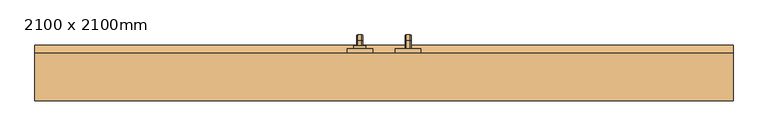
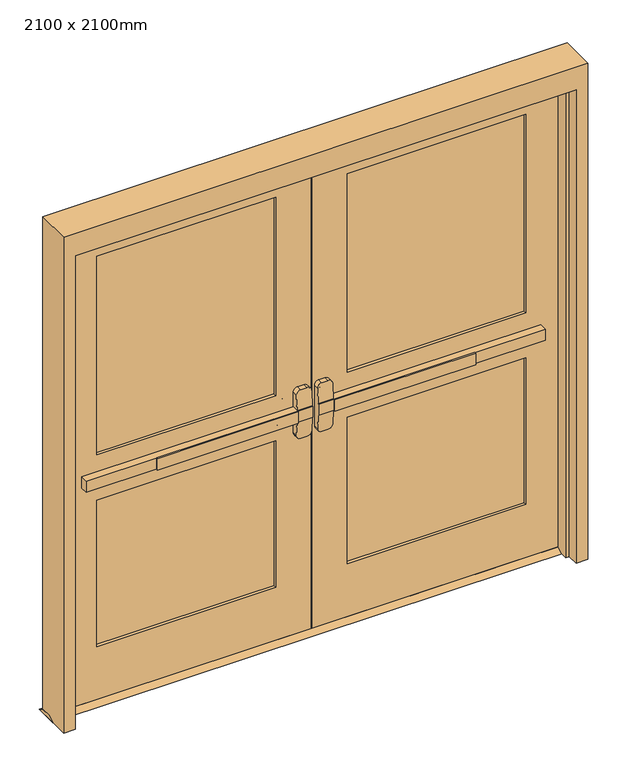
"""IFC4 building model written with IfcOpenShell, lengths in millimetres: door geometry, Дверь-Наружная-Двойная-Две_Свет : 2100 x 2100mm."""

from ifc_helpers import new_model, si_unit, point, frame, frame_2d, origin, place, context, project, spatial, polyline, circle_curve, ellipse_curve, trimmed, segment, composite_curve, outline, extrude, faceted_brep, source, transform, mapped, element, save
from ifc_brep_helpers import plane_surface, cylinder_surface, revolved_surface, advanced_brep


def door_2100_x_2100mm_7a8dc267(model_context):
    return source(origin(), model_context, "Body", "SolidModel", [
        extrude(outline(polyline([(-667.2, -1.75), (-667.2, 4.6), (-76.2, 4.6), (-76.2, -1.75), (-667.2, -1.75)])), frame((0.0, 0.0, 974.6), z_axis=(0.0, 0.0, 1.0), x_axis=(1.0, 0.0, 0.0)), (0.0, 0.0, 1.0), 50.8),
        advanced_brep(
        [(-12.7, 4.6, 1025.4), (-76.2, 4.6, 1025.4), (-962.7, 4.6, 1025.4), (-962.7, 4.6, 974.6), (-76.2, 4.6, 974.6), (-12.7, 4.6, 974.6), (-962.7, 36.35, 1025.4), (-76.2, 36.35, 1025.4), (-76.2, 36.35, 1088.9), (-57.15, 36.35, 1107.95), (-31.75, 36.35, 1107.95), (-12.7, 36.35, 1088.9), (-12.7, 36.35, 911.1), (-31.75, 36.35, 892.05), (-57.15, 36.35, 892.05), (-76.2, 36.35, 911.1), (-76.2, 36.35, 974.6), (-962.7, 36.35, 974.6), (-12.7, 7.7752467, 1025.4), (-76.2, 7.7752467, 1025.4), (-12.7, 7.7752467, 974.6), (-12.7, 12.7854269, 911.1), (-12.7, 12.7854269, 1088.9), (-76.2, 7.7752467, 974.6), (-76.2, 12.7854269, 1088.9), (-76.2, 12.7854269, 911.1), (-57.15, 14.288481, 1107.95), (-31.75, 14.288481, 1107.95), (-31.75, 14.288481, 892.05), (-57.15, 14.288481, 892.05)],
        [
            (0, 1),
            (1, 2),
            (2, 3),
            (3, 4),
            (4, 5),
            (5, 0),
            (6, 7),
            (7, 8),
            (8, 9, circle_curve(frame((-57.15, 36.35, 1088.9), z_axis=(0.0, 1.0, 0.0), x_axis=(-1.0, 0.0, 0.0)), 19.05)),
            (9, 10),
            (10, 11, circle_curve(frame((-31.75, 36.35, 1088.9), z_axis=(0.0, 1.0, 0.0), x_axis=(-1.0, 0.0, 0.0)), 19.05)),
            (11, 12),
            (12, 13, circle_curve(frame((-31.75, 36.35, 911.1), z_axis=(0.0, 1.0, 0.0), x_axis=(-1.0, 0.0, 0.0)), 19.05)),
            (13, 14),
            (14, 15, circle_curve(frame((-57.15, 36.35, 911.1), z_axis=(0.0, 1.0, 0.0), x_axis=(-1.0, 0.0, 0.0)), 19.05)),
            (15, 16),
            (16, 17),
            (17, 6),
            (0, 18),
            (18, 19),
            (19, 7),
            (6, 2),
            (5, 20),
            (20, 21),
            (21, 12),
            (11, 22),
            (22, 18),
            (16, 23),
            (23, 20),
            (3, 17),
            (19, 24),
            (24, 8),
            (15, 25),
            (25, 23),
            (9, 26),
            (26, 27),
            (27, 10),
            (13, 28),
            (28, 29),
            (29, 14),
            (29, 25, ellipse_curve(frame((-57.15, 12.7854269, 911.1), z_axis=(0.0, 0.9969018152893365, 0.07865602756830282), x_axis=(0.0, -0.07865602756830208, 0.9969018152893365)), 19.1092038, 19.05)),
            (24, 26, ellipse_curve(frame((-57.15, 12.7854269, 1088.9), z_axis=(0.0, 0.9969018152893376, -0.07865602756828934), x_axis=(0.0, -0.078656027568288, -0.9969018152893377)), 19.1092038, 19.05)),
            (27, 22, ellipse_curve(frame((-31.75, 12.7854269, 1088.9), z_axis=(0.0, 0.9969018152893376, -0.07865602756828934), x_axis=(0.0, -0.078656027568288, -0.9969018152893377)), 19.1092038, 19.05)),
            (21, 28, ellipse_curve(frame((-31.75, 12.7854269, 911.1), z_axis=(0.0, 0.9969018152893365, 0.07865602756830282), x_axis=(0.0, -0.07865602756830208, 0.9969018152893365)), 19.1092038, 19.05)),
        ],
        [
            plane_surface(frame((-12.7, 4.6, 1025.4), z_axis=(0.0, -1.0, 0.0), x_axis=(1.0, 0.0, 0.0))),
            plane_surface(frame((-12.7, 36.35, 1025.4), z_axis=(0.0, 1.0, 0.0), x_axis=(-1.0, 0.0, 0.0))),
            plane_surface(frame((-962.7, 4.6, 1025.4), z_axis=(0.0, 0.0, 1.0), x_axis=(0.0, 1.0, 0.0))),
            plane_surface(frame((-12.7, 4.6, 1025.4), z_axis=(1.0, 0.0, 0.0), x_axis=(0.0, 1.0, 0.0))),
            plane_surface(frame((-12.7, 4.6, 974.6), z_axis=(0.0, 0.0, -1.0), x_axis=(0.0, 1.0, 0.0))),
            plane_surface(frame((-962.7, 4.6, 974.6), z_axis=(-1.0, 0.0, 0.0), x_axis=(0.0, 1.0, 0.0))),
            plane_surface(frame((-76.2, 7.7752467, 911.1), z_axis=(-1.0, 0.0, 0.0), x_axis=(0.0, 1.0, 0.0))),
            plane_surface(frame((-57.15, 7.7752467, 1107.95), z_axis=(0.0, 0.0, 1.0), x_axis=(0.0, 1.0, 0.0))),
            plane_surface(frame((-31.75, 7.7752467, 892.05), z_axis=(0.0, 0.0, -1.0), x_axis=(0.0, 1.0, 0.0))),
            cylinder_surface(frame((-57.15, 36.35, 911.1), z_axis=(0.0, -1.0, 0.0), x_axis=(-1.0, 0.0, 0.0)), 19.05),
            cylinder_surface(frame((-57.15, 36.35, 1088.9), z_axis=(0.0, -1.0, 0.0), x_axis=(-1.0, 0.0, 0.0)), 19.05),
            cylinder_surface(frame((-31.75, 36.35, 1088.9), z_axis=(0.0, -1.0, 0.0), x_axis=(-1.0, 0.0, 0.0)), 19.05),
            cylinder_surface(frame((-31.75, 36.35, 911.1), z_axis=(0.0, -1.0, 0.0), x_axis=(-1.0, 0.0, 0.0)), 19.05),
            plane_surface(frame((-76.2, 7.7752467, 1025.4), z_axis=(0.0, -0.9969018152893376, 0.07865602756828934), x_axis=(1.0, 0.0, 0.0))),
            plane_surface(frame((-76.2, 14.288481, 892.05), z_axis=(0.0, -0.9969018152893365, -0.07865602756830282), x_axis=(1.0, 0.0, 0.0))),
        ],
        [
            (0, [[1, 2, 3, 4, 5, 6]]),
            (1, [[7, 8, 9, 10, 11, 12, 13, 14, 15, 16, 17, 18]]),
            (2, [[-2, -1, 19, 20, 21, -7, 22]]),
            (3, [[23, 24, 25, -12, 26, 27, -19, -6]]),
            (4, [[-17, 28, 29, -23, -5, -4, 30]]),
            (5, [[-22, -18, -30, -3]]),
            (6, [[-21, 31, 32, -8]]),
            (6, [[33, 34, -28, -16]]),
            (7, [[35, 36, 37, -10]]),
            (8, [[38, 39, 40, -14]]),
            (9, [[-40, 41, -33, -15]]),
            (10, [[-32, 42, -35, -9]]),
            (11, [[-37, 43, -26, -11]]),
            (12, [[-25, 44, -38, -13]]),
            (13, [[-27, -43, -36, -42, -31, -20]]),
            (14, [[-29, -34, -41, -39, -44, -24]]),
        ],
    ),
        extrude(outline(polyline([(81.35, 15.0), (106.75, 0.0), (10.95, 0.0), (36.35, 15.0), (81.35, 15.0)])), frame((-1100.0, 0.0, 0.0), z_axis=(1.0, 0.0, 0.0), x_axis=(0.0, 1.0, 0.0)), (0.0, 0.0, 1.0), 2200.0),
        extrude(outline(polyline([(667.2, -1.75), (76.2, -1.75), (76.2, 4.6), (667.2, 4.6), (667.2, -1.75)])), frame((0.0, 0.0, 974.6), z_axis=(0.0, 0.0, 1.0), x_axis=(1.0, 0.0, 0.0)), (0.0, 0.0, 1.0), 50.8),
        advanced_brep(
        [(12.7, 4.6, 1025.4), (12.7, 4.6, 974.6), (76.2, 4.6, 974.6), (962.7, 4.6, 974.6), (962.7, 4.6, 1025.4), (76.2, 4.6, 1025.4), (962.7, 36.35, 1025.4), (962.7, 36.35, 974.6), (76.2, 36.35, 974.6), (76.2, 36.35, 911.1), (57.15, 36.35, 892.05), (31.75, 36.35, 892.05), (12.7, 36.35, 911.1), (12.7, 36.35, 1088.9), (31.75, 36.35, 1107.95), (57.15, 36.35, 1107.95), (76.2, 36.35, 1088.9), (76.2, 36.35, 1025.4), (76.2, 7.7752467, 1025.4), (12.7, 7.7752467, 1025.4), (12.7, 12.7854269, 1088.9), (12.7, 12.7854269, 911.1), (12.7, 7.7752467, 974.6), (76.2, 7.7752467, 974.6), (76.2, 12.7854269, 911.1), (76.2, 12.7854269, 1088.9), (31.75, 14.288481, 1107.95), (57.15, 14.288481, 1107.95), (57.15, 14.288481, 892.05), (31.75, 14.288481, 892.05)],
        [
            (0, 1),
            (1, 2),
            (2, 3),
            (3, 4),
            (4, 5),
            (5, 0),
            (6, 7),
            (7, 8),
            (8, 9),
            (9, 10, circle_curve(frame((57.15, 36.35, 911.1), z_axis=(0.0, 1.0, 0.0), x_axis=(1.0, 0.0, 0.0)), 19.05)),
            (10, 11),
            (11, 12, circle_curve(frame((31.75, 36.35, 911.1), z_axis=(0.0, 1.0, 0.0), x_axis=(1.0, 0.0, 0.0)), 19.05)),
            (12, 13),
            (13, 14, circle_curve(frame((31.75, 36.35, 1088.9), z_axis=(0.0, 1.0, 0.0), x_axis=(1.0, 0.0, 0.0)), 19.05)),
            (14, 15),
            (15, 16, circle_curve(frame((57.15, 36.35, 1088.9), z_axis=(0.0, 1.0, 0.0), x_axis=(1.0, 0.0, 0.0)), 19.05)),
            (16, 17),
            (17, 6),
            (4, 6),
            (17, 18),
            (18, 19),
            (19, 0),
            (19, 20),
            (20, 13),
            (12, 21),
            (21, 22),
            (22, 1),
            (7, 3),
            (22, 23),
            (23, 8),
            (23, 24),
            (24, 9),
            (16, 25),
            (25, 18),
            (14, 26),
            (26, 27),
            (27, 15),
            (10, 28),
            (28, 29),
            (29, 11),
            (24, 28, ellipse_curve(frame((57.15, 12.7854269, 911.1), z_axis=(0.0, 0.9969018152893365, 0.07865602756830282), x_axis=(0.0, -0.07865602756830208, 0.9969018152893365)), 19.1092038, 19.05)),
            (27, 25, ellipse_curve(frame((57.15, 12.7854269, 1088.9), z_axis=(0.0, 0.9969018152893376, -0.07865602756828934), x_axis=(0.0, -0.078656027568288, -0.9969018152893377)), 19.1092038, 19.05)),
            (20, 26, ellipse_curve(frame((31.75, 12.7854269, 1088.9), z_axis=(0.0, 0.9969018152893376, -0.07865602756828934), x_axis=(0.0, -0.078656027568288, -0.9969018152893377)), 19.1092038, 19.05)),
            (29, 21, ellipse_curve(frame((31.75, 12.7854269, 911.1), z_axis=(0.0, 0.9969018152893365, 0.07865602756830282), x_axis=(0.0, -0.07865602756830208, 0.9969018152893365)), 19.1092038, 19.05)),
        ],
        [
            plane_surface(frame((12.7, 4.6, 1025.4), z_axis=(0.0, -1.0, 0.0), x_axis=(-1.0, 0.0, 0.0))),
            plane_surface(frame((12.7, 36.35, 1025.4), z_axis=(0.0, 1.0, 0.0), x_axis=(1.0, 0.0, 0.0))),
            plane_surface(frame((962.7, 4.6, 1025.4), z_axis=(0.0, 0.0, 1.0), x_axis=(0.0, 1.0, 0.0))),
            plane_surface(frame((12.7, 4.6, 1025.4), z_axis=(-1.0, 0.0, 0.0), x_axis=(0.0, 1.0, 0.0))),
            plane_surface(frame((12.7, 4.6, 974.6), z_axis=(0.0, 0.0, -1.0), x_axis=(0.0, 1.0, 0.0))),
            plane_surface(frame((962.7, 4.6, 974.6), z_axis=(1.0, 0.0, 0.0), x_axis=(0.0, 1.0, 0.0))),
            plane_surface(frame((76.2, 7.7752467, 911.1), z_axis=(1.0, 0.0, 0.0), x_axis=(0.0, 1.0, 0.0))),
            plane_surface(frame((57.15, 7.7752467, 1107.95), z_axis=(0.0, 0.0, 1.0), x_axis=(0.0, 1.0, 0.0))),
            plane_surface(frame((31.75, 7.7752467, 892.05), z_axis=(0.0, 0.0, -1.0), x_axis=(0.0, 1.0, 0.0))),
            cylinder_surface(frame((57.15, 36.35, 911.1), z_axis=(0.0, -1.0, 0.0), x_axis=(1.0, 0.0, 0.0)), 19.05),
            cylinder_surface(frame((57.15, 36.35, 1088.9), z_axis=(0.0, -1.0, 0.0), x_axis=(1.0, 0.0, 0.0)), 19.05),
            cylinder_surface(frame((31.75, 36.35, 1088.9), z_axis=(0.0, -1.0, 0.0), x_axis=(1.0, 0.0, 0.0)), 19.05),
            cylinder_surface(frame((31.75, 36.35, 911.1), z_axis=(0.0, -1.0, 0.0), x_axis=(1.0, 0.0, 0.0)), 19.05),
            plane_surface(frame((76.2, 7.7752467, 1025.4), z_axis=(0.0, -0.9969018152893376, 0.07865602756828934), x_axis=(-1.0, 0.0, 0.0))),
            plane_surface(frame((76.2, 14.288481, 892.05), z_axis=(0.0, -0.9969018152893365, -0.07865602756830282), x_axis=(-1.0, 0.0, 0.0))),
        ],
        [
            (0, [[1, 2, 3, 4, 5, 6]]),
            (1, [[7, 8, 9, 10, 11, 12, 13, 14, 15, 16, 17, 18]]),
            (2, [[19, -18, 20, 21, 22, -6, -5]]),
            (3, [[-1, -22, 23, 24, -13, 25, 26, 27]]),
            (4, [[28, -3, -2, -27, 29, 30, -8]]),
            (5, [[-4, -28, -7, -19]]),
            (6, [[-9, -30, 31, 32]]),
            (6, [[-17, 33, 34, -20]]),
            (7, [[-15, 35, 36, 37]]),
            (8, [[-11, 38, 39, 40]]),
            (9, [[-10, -32, 41, -38]]),
            (10, [[-16, -37, 42, -33]]),
            (11, [[-14, -24, 43, -35]]),
            (12, [[-12, -40, 44, -25]]),
            (13, [[-21, -34, -42, -36, -43, -23]]),
            (14, [[-26, -44, -39, -41, -31, -29]]),
        ],
    ),
        advanced_brep(
        [(66.2, 96.35, 1001.190625), (66.2, 96.35, 998.809375), (69.771875, 96.35, 995.2375), (82.6284594, 96.35, 995.2375), (86.2, 96.35, 998.8090406), (86.2, 96.35, 1001.190625), (82.628125, 96.35, 1004.7625), (69.771875, 96.35, 1004.7625), (66.2, 96.35, 874.609375), (69.771875, 96.35, 871.0375), (82.628125, 96.35, 871.0375), (86.2, 96.35, 874.609375), (86.2, 96.35, 876.9909594), (82.6284594, 96.35, 880.5625), (69.771875, 96.35, 880.5625), (66.2, 96.35, 876.990625), (66.2, 121.75, 1001.190625), (66.2, 135.640625, 987.3), (66.2, 135.640625, 888.5), (66.2, 121.75, 874.609375), (66.2, 121.75, 876.990625), (66.2, 133.259375, 888.5), (66.2, 133.259375, 987.3), (66.2, 121.75, 998.809375), (69.771875, 121.75, 995.2375), (82.6284594, 121.75, 995.2375), (86.2, 121.75, 998.8090406), (86.2, 133.2590406, 987.3), (86.2, 133.2590406, 888.5), (86.2, 121.75, 876.9909594), (86.2, 121.75, 874.609375), (86.2, 135.640625, 888.5), (86.2, 135.640625, 987.3), (86.2, 121.75, 1001.190625), (82.628125, 121.75, 1004.7625), (69.771875, 121.75, 1004.7625), (69.771875, 129.6875, 987.3), (82.6284594, 129.6875, 987.3), (82.628125, 139.2125, 987.3), (69.771875, 139.2125, 987.3), (69.771875, 129.6875, 888.5), (82.6284594, 129.6875, 888.5), (82.628125, 139.2125, 888.5), (69.771875, 139.2125, 888.5), (69.771875, 121.75, 880.5625), (82.6284594, 121.75, 880.5625), (82.628125, 121.75, 871.0375), (69.771875, 121.75, 871.0375)],
        [
            (0, 1),
            (1, 2, circle_curve(frame((69.771875, 96.35, 998.809375), z_axis=(0.0, -1.0, 0.0), x_axis=(0.0, 0.0, 1.0)), 3.571875)),
            (2, 3),
            (3, 4, circle_curve(frame((82.6284594, 96.35, 998.8090406), z_axis=(0.0, -1.0, 0.0), x_axis=(0.0, 0.0, 1.0)), 3.5715406)),
            (4, 5),
            (5, 6, circle_curve(frame((82.628125, 96.35, 1001.190625), z_axis=(0.0, -1.0, 0.0), x_axis=(0.0, 0.0, 1.0)), 3.571875)),
            (6, 7),
            (7, 0, circle_curve(frame((69.771875, 96.35, 1001.190625), z_axis=(0.0, -1.0, 0.0), x_axis=(0.0, 0.0, 1.0)), 3.571875)),
            (8, 9, circle_curve(frame((69.771875, 96.35, 874.609375), z_axis=(0.0, -1.0, 0.0), x_axis=(0.0, 0.0, -1.0)), 3.571875)),
            (9, 10),
            (10, 11, circle_curve(frame((82.628125, 96.35, 874.609375), z_axis=(0.0, -1.0, 0.0), x_axis=(0.0, 0.0, -1.0)), 3.571875)),
            (11, 12),
            (12, 13, circle_curve(frame((82.6284594, 96.35, 876.9909594), z_axis=(0.0, -1.0, 0.0), x_axis=(0.0, 0.0, -1.0)), 3.5715406)),
            (13, 14),
            (14, 15, circle_curve(frame((69.771875, 96.35, 876.990625), z_axis=(0.0, -1.0, 0.0), x_axis=(0.0, 0.0, -1.0)), 3.571875)),
            (15, 8),
            (0, 16),
            (16, 17, circle_curve(frame((66.2, 121.75, 987.3), z_axis=(-1.0, 0.0, 0.0), x_axis=(0.0, 0.0, 1.0)), 13.890625)),
            (17, 18),
            (18, 19, circle_curve(frame((66.2, 121.75, 888.5), z_axis=(-1.0, 0.0, 0.0), x_axis=(0.0, 1.0, 0.0)), 13.890625)),
            (19, 8),
            (15, 20),
            (20, 21, circle_curve(frame((66.2, 121.75, 888.5), z_axis=(1.0, 0.0, 0.0), x_axis=(0.0, 1.0, 0.0)), 11.509375)),
            (21, 22),
            (22, 23, circle_curve(frame((66.2, 121.75, 987.3), z_axis=(1.0, 0.0, 0.0), x_axis=(0.0, 0.0, 1.0)), 11.509375)),
            (23, 1),
            (23, 24, circle_curve(frame((69.771875, 121.75, 998.809375), z_axis=(0.0, -1.0, 0.0), x_axis=(0.0, 0.0, 1.0)), 3.571875)),
            (24, 2),
            (24, 25),
            (25, 3),
            (25, 26, circle_curve(frame((82.6284594, 121.75, 998.8090406), z_axis=(0.0, -1.0, 0.0), x_axis=(0.0, 0.0, 1.0)), 3.5715406)),
            (26, 4),
            (26, 27, circle_curve(frame((86.2, 121.75, 987.3), z_axis=(-1.0, 0.0, 0.0), x_axis=(0.0, 0.0, 1.0)), 11.5090406)),
            (27, 28),
            (28, 29, circle_curve(frame((86.2, 121.75, 888.5), z_axis=(-1.0, 0.0, 0.0), x_axis=(0.0, 1.0, 0.0)), 11.5090406)),
            (29, 12),
            (11, 30),
            (30, 31, circle_curve(frame((86.2, 121.75, 888.5), z_axis=(1.0, 0.0, 0.0), x_axis=(0.0, 1.0, 0.0)), 13.890625)),
            (31, 32),
            (32, 33, circle_curve(frame((86.2, 121.75, 987.3), z_axis=(1.0, 0.0, 0.0), x_axis=(0.0, 0.0, 1.0)), 13.890625)),
            (33, 5),
            (33, 34, circle_curve(frame((82.628125, 121.75, 1001.190625), z_axis=(0.0, -1.0, 0.0), x_axis=(0.0, 0.0, 1.0)), 3.571875)),
            (34, 6),
            (34, 35),
            (35, 7),
            (35, 16, circle_curve(frame((69.771875, 121.75, 1001.190625), z_axis=(0.0, -1.0, 0.0), x_axis=(0.0, 0.0, 1.0)), 3.571875)),
            (36, 24, circle_curve(frame((69.771875, 121.75, 987.3), z_axis=(1.0, 0.0, 0.0), x_axis=(0.0, 0.0, 1.0)), 7.9375)),
            (22, 36, circle_curve(frame((69.771875, 133.259375, 987.3), z_axis=(0.0, 0.0, 1.0), x_axis=(0.0, 1.0, 0.0)), 3.571875)),
            (37, 25, circle_curve(frame((82.6284594, 121.75, 987.3), z_axis=(1.0, 0.0, 0.0), x_axis=(0.0, 0.0, 1.0)), 7.9375)),
            (36, 37),
            (37, 27, circle_curve(frame((82.6284594, 133.2590406, 987.3), z_axis=(0.0, 0.0, 1.0), x_axis=(0.0, 1.0, 0.0)), 3.5715406)),
            (38, 34, circle_curve(frame((82.628125, 121.75, 987.3), z_axis=(1.0, 0.0, 0.0), x_axis=(0.0, 0.0, 1.0)), 17.4625)),
            (32, 38, circle_curve(frame((82.628125, 135.640625, 987.3), z_axis=(0.0, 0.0, 1.0), x_axis=(0.0, 1.0, 0.0)), 3.571875)),
            (39, 35, circle_curve(frame((69.771875, 121.75, 987.3), z_axis=(1.0, 0.0, 0.0), x_axis=(0.0, 0.0, 1.0)), 17.4625)),
            (38, 39),
            (39, 17, circle_curve(frame((69.771875, 135.640625, 987.3), z_axis=(0.0, 0.0, 1.0), x_axis=(0.0, 1.0, 0.0)), 3.571875)),
            (21, 40, circle_curve(frame((69.771875, 133.259375, 888.5), z_axis=(0.0, 0.0, 1.0), x_axis=(0.0, 1.0, 0.0)), 3.571875)),
            (40, 36),
            (40, 41),
            (41, 37),
            (41, 28, circle_curve(frame((82.6284594, 133.2590406, 888.5), z_axis=(0.0, 0.0, 1.0), x_axis=(0.0, 1.0, 0.0)), 3.5715406)),
            (31, 42, circle_curve(frame((82.628125, 135.640625, 888.5), z_axis=(0.0, 0.0, 1.0), x_axis=(0.0, 1.0, 0.0)), 3.571875)),
            (42, 38),
            (42, 43),
            (43, 39),
            (43, 18, circle_curve(frame((69.771875, 135.640625, 888.5), z_axis=(0.0, 0.0, 1.0), x_axis=(0.0, 1.0, 0.0)), 3.571875)),
            (44, 40, circle_curve(frame((69.771875, 121.75, 888.5), z_axis=(1.0, 0.0, 0.0), x_axis=(0.0, 1.0, 0.0)), 7.9375)),
            (20, 44, circle_curve(frame((69.771875, 121.75, 876.990625), z_axis=(0.0, 1.0, 0.0), x_axis=(0.0, 0.0, -1.0)), 3.571875)),
            (45, 41, circle_curve(frame((82.6284594, 121.75, 888.5), z_axis=(1.0, 0.0, 0.0), x_axis=(0.0, 1.0, 0.0)), 7.9375)),
            (44, 45),
            (45, 29, circle_curve(frame((82.6284594, 121.75, 876.9909594), z_axis=(0.0, 1.0, 0.0), x_axis=(0.0, 0.0, -1.0)), 3.5715406)),
            (46, 42, circle_curve(frame((82.628125, 121.75, 888.5), z_axis=(1.0, 0.0, 0.0), x_axis=(0.0, 1.0, 0.0)), 17.4625)),
            (30, 46, circle_curve(frame((82.628125, 121.75, 874.609375), z_axis=(0.0, 1.0, 0.0), x_axis=(0.0, 0.0, -1.0)), 3.571875)),
            (47, 43, circle_curve(frame((69.771875, 121.75, 888.5), z_axis=(1.0, 0.0, 0.0), x_axis=(0.0, 1.0, 0.0)), 17.4625)),
            (46, 47),
            (47, 19, circle_curve(frame((69.771875, 121.75, 874.609375), z_axis=(0.0, 1.0, 0.0), x_axis=(0.0, 0.0, -1.0)), 3.571875)),
            (14, 44),
            (13, 45),
            (10, 46),
            (9, 47),
        ],
        [
            plane_surface(frame((76.2, 96.35, 1000.0), z_axis=(0.0, -1.0, 0.0), x_axis=(1.0, 0.0, 0.0))),
            plane_surface(frame((76.2, 96.35, 875.8), z_axis=(0.0, -1.0, 0.0), x_axis=(1.0, 0.0, 0.0))),
            plane_surface(frame((66.2, 96.35, 1001.190625), z_axis=(-1.0, 0.0, 0.0), x_axis=(0.0, 1.0, 0.0))),
            cylinder_surface(frame((69.771875, 96.35, 998.809375), z_axis=(0.0, -1.0, 0.0), x_axis=(0.0, 0.0, 1.0)), 3.571875),
            plane_surface(frame((69.771875, 96.35, 995.2375), z_axis=(0.0, 0.0, -1.0), x_axis=(0.0, 1.0, 0.0))),
            cylinder_surface(frame((82.6284594, 96.35, 998.8090406), z_axis=(0.0, -1.0, 0.0), x_axis=(0.0, 0.0, 1.0)), 3.5715406),
            plane_surface(frame((86.2, 96.35, 998.8090406), z_axis=(1.0, 0.0, 0.0), x_axis=(0.0, 1.0, 0.0))),
            cylinder_surface(frame((82.628125, 96.35, 1001.190625), z_axis=(0.0, -1.0, 0.0), x_axis=(0.0, 0.0, 1.0)), 3.571875),
            plane_surface(frame((82.628125, 96.35, 1004.7625), z_axis=(0.0, 0.0, 1.0), x_axis=(0.0, 1.0, 0.0))),
            cylinder_surface(frame((69.771875, 96.35, 1001.190625), z_axis=(0.0, -1.0, 0.0), x_axis=(0.0, 0.0, 1.0)), 3.571875),
            revolved_surface(trimmed(ellipse_curve(frame((69.771875, 121.75, 998.809375), z_axis=(0.0, -1.0, 0.0), x_axis=(0.0, 0.0, 1.0)), 3.571875, 3.571875), [point((66.2, 121.75, 998.809375))], [point((69.771875, 121.75, 995.2375))], True, "CARTESIAN"), (76.2, 121.75, 987.3), (-1.0, 0.0, 0.0)),
            revolved_surface(polyline([(69.771875, 121.75, 995.2375), (82.6284594, 121.75, 995.2375)]), (76.2, 121.75, 987.3), (-1.0, 0.0, 0.0)),
            revolved_surface(trimmed(ellipse_curve(frame((82.6284594, 121.75, 998.8090406), z_axis=(0.0, -1.0, 0.0), x_axis=(0.0, 0.0, 1.0)), 3.5715406, 3.5715406), [point((82.6284594, 121.75, 995.2375))], [point((86.2, 121.75, 998.8090406))], True, "CARTESIAN"), (76.2, 121.75, 987.3), (-1.0, 0.0, 0.0)),
            revolved_surface(trimmed(ellipse_curve(frame((82.628125, 121.75, 1001.190625), z_axis=(0.0, -1.0, 0.0), x_axis=(0.0, 0.0, 1.0)), 3.571875, 3.571875), [point((86.2, 121.75, 1001.190625))], [point((82.628125, 121.75, 1004.7625))], True, "CARTESIAN"), (76.2, 121.75, 987.3), (-1.0, 0.0, 0.0)),
            cylinder_surface(frame((76.2, 121.75, 987.3), z_axis=(-1.0, 0.0, 0.0), x_axis=(0.0, 0.0, 1.0)), 17.4625),
            revolved_surface(trimmed(ellipse_curve(frame((69.771875, 121.75, 1001.190625), z_axis=(0.0, -1.0, 0.0), x_axis=(0.0, 0.0, 1.0)), 3.571875, 3.571875), [point((69.771875, 121.75, 1004.7625))], [point((66.2, 121.75, 1001.190625))], True, "CARTESIAN"), (76.2, 121.75, 987.3), (-1.0, 0.0, 0.0)),
            cylinder_surface(frame((69.771875, 133.259375, 987.3), z_axis=(0.0, 0.0, 1.0), x_axis=(0.0, 1.0, 0.0)), 3.571875),
            plane_surface(frame((69.771875, 129.6875, 987.3), z_axis=(0.0, -1.0, 0.0), x_axis=(0.0, 0.0, -1.0))),
            cylinder_surface(frame((82.6284594, 133.2590406, 987.3), z_axis=(0.0, 0.0, 1.0), x_axis=(0.0, 1.0, 0.0)), 3.5715406),
            cylinder_surface(frame((82.628125, 135.640625, 987.3), z_axis=(0.0, 0.0, 1.0), x_axis=(0.0, 1.0, 0.0)), 3.571875),
            plane_surface(frame((82.628125, 139.2125, 987.3), z_axis=(0.0, 1.0, 0.0), x_axis=(0.0, 0.0, -1.0))),
            cylinder_surface(frame((69.771875, 135.640625, 987.3), z_axis=(0.0, 0.0, 1.0), x_axis=(0.0, 1.0, 0.0)), 3.571875),
            revolved_surface(trimmed(ellipse_curve(frame((69.771875, 133.259375, 888.5), z_axis=(0.0, 0.0, 1.0), x_axis=(0.0, 1.0, 0.0)), 3.571875, 3.571875), [point((66.2, 133.259375, 888.5))], [point((69.771875, 129.6875, 888.5))], True, "CARTESIAN"), (76.2, 121.75, 888.5), (-1.0, 0.0, 0.0)),
            revolved_surface(polyline([(69.771875, 129.6875, 888.5), (82.6284594, 129.6875, 888.5)]), (76.2, 121.75, 888.5), (-1.0, 0.0, 0.0)),
            revolved_surface(trimmed(ellipse_curve(frame((82.6284594, 133.2590406, 888.5), z_axis=(0.0, 0.0, 1.0), x_axis=(0.0, 1.0, 0.0)), 3.5715406, 3.5715406), [point((82.6284594, 129.6875, 888.5))], [point((86.2, 133.2590406, 888.5))], True, "CARTESIAN"), (76.2, 121.75, 888.5), (-1.0, 0.0, 0.0)),
            revolved_surface(trimmed(ellipse_curve(frame((82.628125, 135.640625, 888.5), z_axis=(0.0, 0.0, 1.0), x_axis=(0.0, 1.0, 0.0)), 3.571875, 3.571875), [point((86.2, 135.640625, 888.5))], [point((82.628125, 139.2125, 888.5))], True, "CARTESIAN"), (76.2, 121.75, 888.5), (-1.0, 0.0, 0.0)),
            cylinder_surface(frame((76.2, 121.75, 888.5), z_axis=(-1.0, 0.0, 0.0), x_axis=(0.0, 1.0, 0.0)), 17.4625),
            revolved_surface(trimmed(ellipse_curve(frame((69.771875, 135.640625, 888.5), z_axis=(0.0, 0.0, 1.0), x_axis=(0.0, 1.0, 0.0)), 3.571875, 3.571875), [point((69.771875, 139.2125, 888.5))], [point((66.2, 135.640625, 888.5))], True, "CARTESIAN"), (76.2, 121.75, 888.5), (-1.0, 0.0, 0.0)),
            cylinder_surface(frame((69.771875, 121.75, 876.990625), z_axis=(0.0, 1.0, 0.0), x_axis=(0.0, 0.0, -1.0)), 3.571875),
            plane_surface(frame((69.771875, 121.75, 880.5625), z_axis=(0.0, 0.0, 1.0), x_axis=(0.0, -1.0, 0.0))),
            cylinder_surface(frame((82.6284594, 121.75, 876.9909594), z_axis=(0.0, 1.0, 0.0), x_axis=(0.0, 0.0, -1.0)), 3.5715406),
            cylinder_surface(frame((82.628125, 121.75, 874.609375), z_axis=(0.0, 1.0, 0.0), x_axis=(0.0, 0.0, -1.0)), 3.571875),
            plane_surface(frame((82.628125, 121.75, 871.0375), z_axis=(0.0, 0.0, -1.0), x_axis=(0.0, -1.0, 0.0))),
            cylinder_surface(frame((69.771875, 121.75, 874.609375), z_axis=(0.0, 1.0, 0.0), x_axis=(0.0, 0.0, -1.0)), 3.571875),
        ],
        [
            (0, [[1, 2, 3, 4, 5, 6, 7, 8]]),
            (1, [[9, 10, 11, 12, 13, 14, 15, 16]]),
            (2, [[-1, 17, 18, 19, 20, 21, -16, 22, 23, 24, 25, 26]]),
            (3, [[-2, -26, 27, 28]]),
            (4, [[-3, -28, 29, 30]]),
            (5, [[-4, -30, 31, 32]]),
            (6, [[-5, -32, 33, 34, 35, 36, -12, 37, 38, 39, 40, 41]]),
            (7, [[-6, -41, 42, 43]]),
            (8, [[-7, -43, 44, 45]]),
            (9, [[-8, -45, 46, -17]]),
            (10, [[47, -27, -25, 48]]),
            (11, [[49, -29, -47, 50]]),
            (12, [[-33, -31, -49, 51]]),
            (13, [[52, -42, -40, 53]]),
            (14, [[54, -44, -52, 55]]),
            (15, [[-18, -46, -54, 56]]),
            (16, [[-48, -24, 57, 58]]),
            (17, [[-50, -58, 59, 60]]),
            (18, [[-51, -60, 61, -34]]),
            (19, [[-53, -39, 62, 63]]),
            (20, [[-55, -63, 64, 65]]),
            (21, [[-56, -65, 66, -19]]),
            (22, [[67, -57, -23, 68]]),
            (23, [[69, -59, -67, 70]]),
            (24, [[-35, -61, -69, 71]]),
            (25, [[72, -62, -38, 73]]),
            (26, [[74, -64, -72, 75]]),
            (27, [[-20, -66, -74, 76]]),
            (28, [[-68, -22, -15, 77]]),
            (29, [[-70, -77, -14, 78]]),
            (30, [[-71, -78, -13, -36]]),
            (31, [[-73, -37, -11, 79]]),
            (32, [[-75, -79, -10, 80]]),
            (33, [[-76, -80, -9, -21]]),
        ],
    ),
        extrude(outline(composite_curve([segment(trimmed(circle_curve(frame_2d((1094.2338574, 76.2)), 90.1286291), [point((1175.0, 116.2))], [point((1175.0, 36.2))], False, "CARTESIAN"), True, "CONTINUOUS"), segment(polyline([(1175.0, 36.2), (825.0, 36.2)]), True, "CONTINUOUS"), segment(trimmed(circle_curve(frame_2d((905.7661426, 76.2)), 90.1286291), [point((825.0, 36.2))], [point((825.0, 116.2))], False, "CARTESIAN"), True, "CONTINUOUS"), segment(polyline([(825.0, 116.2), (1175.0, 116.2)]), True, "CONTINUOUS")], self_intersect=False)), frame((0.0, 81.35, 0.0), z_axis=(0.0, 1.0, 0.0), x_axis=(0.0, 0.0, 1.0)), (0.0, 0.0, 1.0), 15.0),
        advanced_brep(
        [(-86.2, 96.35, 1001.190625), (-86.2, 96.35, 998.809375), (-82.628125, 96.35, 995.2375), (-69.7715406, 96.35, 995.2375), (-66.2, 96.35, 998.8090406), (-66.2, 96.35, 1001.190625), (-69.771875, 96.35, 1004.7625), (-82.628125, 96.35, 1004.7625), (-86.2, 96.35, 874.609375), (-82.628125, 96.35, 871.0375), (-69.771875, 96.35, 871.0375), (-66.2, 96.35, 874.609375), (-66.2, 96.35, 876.9909594), (-69.7715406, 96.35, 880.5625), (-82.628125, 96.35, 880.5625), (-86.2, 96.35, 876.990625), (-86.2, 121.75, 1001.190625), (-86.2, 135.640625, 987.3), (-86.2, 135.640625, 888.5), (-86.2, 121.75, 874.609375), (-86.2, 121.75, 876.990625), (-86.2, 133.259375, 888.5), (-86.2, 133.259375, 987.3), (-86.2, 121.75, 998.809375), (-82.628125, 121.75, 995.2375), (-69.7715406, 121.75, 995.2375), (-66.2, 121.75, 998.8090406), (-66.2, 133.2590406, 987.3), (-66.2, 133.2590406, 888.5), (-66.2, 121.75, 876.9909594), (-66.2, 121.75, 874.609375), (-66.2, 135.640625, 888.5), (-66.2, 135.640625, 987.3), (-66.2, 121.75, 1001.190625), (-69.771875, 121.75, 1004.7625), (-82.628125, 121.75, 1004.7625), (-82.628125, 129.6875, 987.3), (-69.7715406, 129.6875, 987.3), (-69.771875, 139.2125, 987.3), (-82.628125, 139.2125, 987.3), (-82.628125, 129.6875, 888.5), (-69.7715406, 129.6875, 888.5), (-69.771875, 139.2125, 888.5), (-82.628125, 139.2125, 888.5), (-82.628125, 121.75, 880.5625), (-69.7715406, 121.75, 880.5625), (-69.771875, 121.75, 871.0375), (-82.628125, 121.75, 871.0375)],
        [
            (0, 1),
            (1, 2, circle_curve(frame((-82.628125, 96.35, 998.809375), z_axis=(0.0, -1.0, 0.0), x_axis=(0.0, 0.0, 1.0)), 3.571875)),
            (2, 3),
            (3, 4, circle_curve(frame((-69.7715406, 96.35, 998.8090406), z_axis=(0.0, -1.0, 0.0), x_axis=(0.0, 0.0, 1.0)), 3.5715406)),
            (4, 5),
            (5, 6, circle_curve(frame((-69.771875, 96.35, 1001.190625), z_axis=(0.0, -1.0, 0.0), x_axis=(0.0, 0.0, 1.0)), 3.571875)),
            (6, 7),
            (7, 0, circle_curve(frame((-82.628125, 96.35, 1001.190625), z_axis=(0.0, -1.0, 0.0), x_axis=(0.0, 0.0, 1.0)), 3.571875)),
            (8, 9, circle_curve(frame((-82.628125, 96.35, 874.609375), z_axis=(0.0, -1.0, 0.0), x_axis=(0.0, 0.0, -1.0)), 3.571875)),
            (9, 10),
            (10, 11, circle_curve(frame((-69.771875, 96.35, 874.609375), z_axis=(0.0, -1.0, 0.0), x_axis=(0.0, 0.0, -1.0)), 3.571875)),
            (11, 12),
            (12, 13, circle_curve(frame((-69.7715406, 96.35, 876.9909594), z_axis=(0.0, -1.0, 0.0), x_axis=(0.0, 0.0, -1.0)), 3.5715406)),
            (13, 14),
            (14, 15, circle_curve(frame((-82.628125, 96.35, 876.990625), z_axis=(0.0, -1.0, 0.0), x_axis=(0.0, 0.0, -1.0)), 3.571875)),
            (15, 8),
            (0, 16),
            (16, 17, circle_curve(frame((-86.2, 121.75, 987.3), z_axis=(-1.0, 0.0, 0.0), x_axis=(0.0, 0.0, 1.0)), 13.890625)),
            (17, 18),
            (18, 19, circle_curve(frame((-86.2, 121.75, 888.5), z_axis=(-1.0, 0.0, 0.0), x_axis=(0.0, 1.0, 0.0)), 13.890625)),
            (19, 8),
            (15, 20),
            (20, 21, circle_curve(frame((-86.2, 121.75, 888.5), z_axis=(1.0, 0.0, 0.0), x_axis=(0.0, 1.0, 0.0)), 11.509375)),
            (21, 22),
            (22, 23, circle_curve(frame((-86.2, 121.75, 987.3), z_axis=(1.0, 0.0, 0.0), x_axis=(0.0, 0.0, 1.0)), 11.509375)),
            (23, 1),
            (23, 24, circle_curve(frame((-82.628125, 121.75, 998.809375), z_axis=(0.0, -1.0, 0.0), x_axis=(0.0, 0.0, 1.0)), 3.571875)),
            (24, 2),
            (24, 25),
            (25, 3),
            (25, 26, circle_curve(frame((-69.7715406, 121.75, 998.8090406), z_axis=(0.0, -1.0, 0.0), x_axis=(0.0, 0.0, 1.0)), 3.5715406)),
            (26, 4),
            (26, 27, circle_curve(frame((-66.2, 121.75, 987.3), z_axis=(-1.0, 0.0, 0.0), x_axis=(0.0, 0.0, 1.0)), 11.5090406)),
            (27, 28),
            (28, 29, circle_curve(frame((-66.2, 121.75, 888.5), z_axis=(-1.0, 0.0, 0.0), x_axis=(0.0, 1.0, 0.0)), 11.5090406)),
            (29, 12),
            (11, 30),
            (30, 31, circle_curve(frame((-66.2, 121.75, 888.5), z_axis=(1.0, 0.0, 0.0), x_axis=(0.0, 1.0, 0.0)), 13.890625)),
            (31, 32),
            (32, 33, circle_curve(frame((-66.2, 121.75, 987.3), z_axis=(1.0, 0.0, 0.0), x_axis=(0.0, 0.0, 1.0)), 13.890625)),
            (33, 5),
            (33, 34, circle_curve(frame((-69.771875, 121.75, 1001.190625), z_axis=(0.0, -1.0, 0.0), x_axis=(0.0, 0.0, 1.0)), 3.571875)),
            (34, 6),
            (34, 35),
            (35, 7),
            (35, 16, circle_curve(frame((-82.628125, 121.75, 1001.190625), z_axis=(0.0, -1.0, 0.0), x_axis=(0.0, 0.0, 1.0)), 3.571875)),
            (36, 24, circle_curve(frame((-82.628125, 121.75, 987.3), z_axis=(1.0, 0.0, 0.0), x_axis=(0.0, 0.0, 1.0)), 7.9375)),
            (22, 36, circle_curve(frame((-82.628125, 133.259375, 987.3), z_axis=(0.0, 0.0, 1.0), x_axis=(0.0, 1.0, 0.0)), 3.571875)),
            (37, 25, circle_curve(frame((-69.7715406, 121.75, 987.3), z_axis=(1.0, 0.0, 0.0), x_axis=(0.0, 0.0, 1.0)), 7.9375)),
            (36, 37),
            (37, 27, circle_curve(frame((-69.7715406, 133.2590406, 987.3), z_axis=(0.0, 0.0, 1.0), x_axis=(0.0, 1.0, 0.0)), 3.5715406)),
            (38, 34, circle_curve(frame((-69.771875, 121.75, 987.3), z_axis=(1.0, 0.0, 0.0), x_axis=(0.0, 0.0, 1.0)), 17.4625)),
            (32, 38, circle_curve(frame((-69.771875, 135.640625, 987.3), z_axis=(0.0, 0.0, 1.0), x_axis=(0.0, 1.0, 0.0)), 3.571875)),
            (39, 35, circle_curve(frame((-82.628125, 121.75, 987.3), z_axis=(1.0, 0.0, 0.0), x_axis=(0.0, 0.0, 1.0)), 17.4625)),
            (38, 39),
            (39, 17, circle_curve(frame((-82.628125, 135.640625, 987.3), z_axis=(0.0, 0.0, 1.0), x_axis=(0.0, 1.0, 0.0)), 3.571875)),
            (21, 40, circle_curve(frame((-82.628125, 133.259375, 888.5), z_axis=(0.0, 0.0, 1.0), x_axis=(0.0, 1.0, 0.0)), 3.571875)),
            (40, 36),
            (40, 41),
            (41, 37),
            (41, 28, circle_curve(frame((-69.7715406, 133.2590406, 888.5), z_axis=(0.0, 0.0, 1.0), x_axis=(0.0, 1.0, 0.0)), 3.5715406)),
            (31, 42, circle_curve(frame((-69.771875, 135.640625, 888.5), z_axis=(0.0, 0.0, 1.0), x_axis=(0.0, 1.0, 0.0)), 3.571875)),
            (42, 38),
            (42, 43),
            (43, 39),
            (43, 18, circle_curve(frame((-82.628125, 135.640625, 888.5), z_axis=(0.0, 0.0, 1.0), x_axis=(0.0, 1.0, 0.0)), 3.571875)),
            (44, 40, circle_curve(frame((-82.628125, 121.75, 888.5), z_axis=(1.0, 0.0, 0.0), x_axis=(0.0, 1.0, 0.0)), 7.9375)),
            (20, 44, circle_curve(frame((-82.628125, 121.75, 876.990625), z_axis=(0.0, 1.0, 0.0), x_axis=(0.0, 0.0, -1.0)), 3.571875)),
            (45, 41, circle_curve(frame((-69.7715406, 121.75, 888.5), z_axis=(1.0, 0.0, 0.0), x_axis=(0.0, 1.0, 0.0)), 7.9375)),
            (44, 45),
            (45, 29, circle_curve(frame((-69.7715406, 121.75, 876.9909594), z_axis=(0.0, 1.0, 0.0), x_axis=(0.0, 0.0, -1.0)), 3.5715406)),
            (46, 42, circle_curve(frame((-69.771875, 121.75, 888.5), z_axis=(1.0, 0.0, 0.0), x_axis=(0.0, 1.0, 0.0)), 17.4625)),
            (30, 46, circle_curve(frame((-69.771875, 121.75, 874.609375), z_axis=(0.0, 1.0, 0.0), x_axis=(0.0, 0.0, -1.0)), 3.571875)),
            (47, 43, circle_curve(frame((-82.628125, 121.75, 888.5), z_axis=(1.0, 0.0, 0.0), x_axis=(0.0, 1.0, 0.0)), 17.4625)),
            (46, 47),
            (47, 19, circle_curve(frame((-82.628125, 121.75, 874.609375), z_axis=(0.0, 1.0, 0.0), x_axis=(0.0, 0.0, -1.0)), 3.571875)),
            (14, 44),
            (13, 45),
            (10, 46),
            (9, 47),
        ],
        [
            plane_surface(frame((-76.2, 96.35, 1000.0), z_axis=(0.0, -1.0, 0.0), x_axis=(1.0, 0.0, 0.0))),
            plane_surface(frame((-76.2, 96.35, 875.8), z_axis=(0.0, -1.0, 0.0), x_axis=(1.0, 0.0, 0.0))),
            plane_surface(frame((-86.2, 96.35, 1001.190625), z_axis=(-1.0, 0.0, 0.0), x_axis=(0.0, 1.0, 0.0))),
            cylinder_surface(frame((-82.628125, 96.35, 998.809375), z_axis=(0.0, -1.0, 0.0), x_axis=(0.0, 0.0, 1.0)), 3.571875),
            plane_surface(frame((-82.628125, 96.35, 995.2375), z_axis=(0.0, 0.0, -1.0), x_axis=(0.0, 1.0, 0.0))),
            cylinder_surface(frame((-69.7715406, 96.35, 998.8090406), z_axis=(0.0, -1.0, 0.0), x_axis=(0.0, 0.0, 1.0)), 3.5715406),
            plane_surface(frame((-66.2, 96.35, 998.8090406), z_axis=(1.0, 0.0, 0.0), x_axis=(0.0, 1.0, 0.0))),
            cylinder_surface(frame((-69.771875, 96.35, 1001.190625), z_axis=(0.0, -1.0, 0.0), x_axis=(0.0, 0.0, 1.0)), 3.571875),
            plane_surface(frame((-69.771875, 96.35, 1004.7625), z_axis=(0.0, 0.0, 1.0), x_axis=(0.0, 1.0, 0.0))),
            cylinder_surface(frame((-82.628125, 96.35, 1001.190625), z_axis=(0.0, -1.0, 0.0), x_axis=(0.0, 0.0, 1.0)), 3.571875),
            revolved_surface(trimmed(ellipse_curve(frame((-82.628125, 121.75, 998.809375), z_axis=(0.0, -1.0, 0.0), x_axis=(0.0, 0.0, 1.0)), 3.571875, 3.571875), [point((-86.2, 121.75, 998.809375))], [point((-82.628125, 121.75, 995.2375))], True, "CARTESIAN"), (-76.2, 121.75, 987.3), (-1.0, 0.0, 0.0)),
            revolved_surface(polyline([(-82.628125, 121.75, 995.2375), (-69.7715406, 121.75, 995.2375)]), (-76.2, 121.75, 987.3), (-1.0, 0.0, 0.0)),
            revolved_surface(trimmed(ellipse_curve(frame((-69.7715406, 121.75, 998.8090406), z_axis=(0.0, -1.0, 0.0), x_axis=(0.0, 0.0, 1.0)), 3.5715406, 3.5715406), [point((-69.7715406, 121.75, 995.2375))], [point((-66.2, 121.75, 998.8090406))], True, "CARTESIAN"), (-76.2, 121.75, 987.3), (-1.0, 0.0, 0.0)),
            revolved_surface(trimmed(ellipse_curve(frame((-69.771875, 121.75, 1001.190625), z_axis=(0.0, -1.0, 0.0), x_axis=(0.0, 0.0, 1.0)), 3.571875, 3.571875), [point((-66.2, 121.75, 1001.190625))], [point((-69.771875, 121.75, 1004.7625))], True, "CARTESIAN"), (-76.2, 121.75, 987.3), (-1.0, 0.0, 0.0)),
            cylinder_surface(frame((-76.2, 121.75, 987.3), z_axis=(-1.0, 0.0, 0.0), x_axis=(0.0, 0.0, 1.0)), 17.4625),
            revolved_surface(trimmed(ellipse_curve(frame((-82.628125, 121.75, 1001.190625), z_axis=(0.0, -1.0, 0.0), x_axis=(0.0, 0.0, 1.0)), 3.571875, 3.571875), [point((-82.628125, 121.75, 1004.7625))], [point((-86.2, 121.75, 1001.190625))], True, "CARTESIAN"), (-76.2, 121.75, 987.3), (-1.0, 0.0, 0.0)),
            cylinder_surface(frame((-82.628125, 133.259375, 987.3), z_axis=(0.0, 0.0, 1.0), x_axis=(0.0, 1.0, 0.0)), 3.571875),
            plane_surface(frame((-82.628125, 129.6875, 987.3), z_axis=(0.0, -1.0, 0.0), x_axis=(0.0, 0.0, -1.0))),
            cylinder_surface(frame((-69.7715406, 133.2590406, 987.3), z_axis=(0.0, 0.0, 1.0), x_axis=(0.0, 1.0, 0.0)), 3.5715406),
            cylinder_surface(frame((-69.771875, 135.640625, 987.3), z_axis=(0.0, 0.0, 1.0), x_axis=(0.0, 1.0, 0.0)), 3.571875),
            plane_surface(frame((-69.771875, 139.2125, 987.3), z_axis=(0.0, 1.0, 0.0), x_axis=(0.0, 0.0, -1.0))),
            cylinder_surface(frame((-82.628125, 135.640625, 987.3), z_axis=(0.0, 0.0, 1.0), x_axis=(0.0, 1.0, 0.0)), 3.571875),
            revolved_surface(trimmed(ellipse_curve(frame((-82.628125, 133.259375, 888.5), z_axis=(0.0, 0.0, 1.0), x_axis=(0.0, 1.0, 0.0)), 3.571875, 3.571875), [point((-86.2, 133.259375, 888.5))], [point((-82.628125, 129.6875, 888.5))], True, "CARTESIAN"), (-76.2, 121.75, 888.5), (-1.0, 0.0, 0.0)),
            revolved_surface(polyline([(-82.628125, 129.6875, 888.5), (-69.7715406, 129.6875, 888.5)]), (-76.2, 121.75, 888.5), (-1.0, 0.0, 0.0)),
            revolved_surface(trimmed(ellipse_curve(frame((-69.7715406, 133.2590406, 888.5), z_axis=(0.0, 0.0, 1.0), x_axis=(0.0, 1.0, 0.0)), 3.5715406, 3.5715406), [point((-69.7715406, 129.6875, 888.5))], [point((-66.2, 133.2590406, 888.5))], True, "CARTESIAN"), (-76.2, 121.75, 888.5), (-1.0, 0.0, 0.0)),
            revolved_surface(trimmed(ellipse_curve(frame((-69.771875, 135.640625, 888.5), z_axis=(0.0, 0.0, 1.0), x_axis=(0.0, 1.0, 0.0)), 3.571875, 3.571875), [point((-66.2, 135.640625, 888.5))], [point((-69.771875, 139.2125, 888.5))], True, "CARTESIAN"), (-76.2, 121.75, 888.5), (-1.0, 0.0, 0.0)),
            cylinder_surface(frame((-76.2, 121.75, 888.5), z_axis=(-1.0, 0.0, 0.0), x_axis=(0.0, 1.0, 0.0)), 17.4625),
            revolved_surface(trimmed(ellipse_curve(frame((-82.628125, 135.640625, 888.5), z_axis=(0.0, 0.0, 1.0), x_axis=(0.0, 1.0, 0.0)), 3.571875, 3.571875), [point((-82.628125, 139.2125, 888.5))], [point((-86.2, 135.640625, 888.5))], True, "CARTESIAN"), (-76.2, 121.75, 888.5), (-1.0, 0.0, 0.0)),
            cylinder_surface(frame((-82.628125, 121.75, 876.990625), z_axis=(0.0, 1.0, 0.0), x_axis=(0.0, 0.0, -1.0)), 3.571875),
            plane_surface(frame((-82.628125, 121.75, 880.5625), z_axis=(0.0, 0.0, 1.0), x_axis=(0.0, -1.0, 0.0))),
            cylinder_surface(frame((-69.7715406, 121.75, 876.9909594), z_axis=(0.0, 1.0, 0.0), x_axis=(0.0, 0.0, -1.0)), 3.5715406),
            cylinder_surface(frame((-69.771875, 121.75, 874.609375), z_axis=(0.0, 1.0, 0.0), x_axis=(0.0, 0.0, -1.0)), 3.571875),
            plane_surface(frame((-69.771875, 121.75, 871.0375), z_axis=(0.0, 0.0, -1.0), x_axis=(0.0, -1.0, 0.0))),
            cylinder_surface(frame((-82.628125, 121.75, 874.609375), z_axis=(0.0, 1.0, 0.0), x_axis=(0.0, 0.0, -1.0)), 3.571875),
        ],
        [
            (0, [[1, 2, 3, 4, 5, 6, 7, 8]]),
            (1, [[9, 10, 11, 12, 13, 14, 15, 16]]),
            (2, [[-1, 17, 18, 19, 20, 21, -16, 22, 23, 24, 25, 26]]),
            (3, [[-2, -26, 27, 28]]),
            (4, [[-3, -28, 29, 30]]),
            (5, [[-4, -30, 31, 32]]),
            (6, [[-5, -32, 33, 34, 35, 36, -12, 37, 38, 39, 40, 41]]),
            (7, [[-6, -41, 42, 43]]),
            (8, [[-7, -43, 44, 45]]),
            (9, [[-8, -45, 46, -17]]),
            (10, [[47, -27, -25, 48]]),
            (11, [[49, -29, -47, 50]]),
            (12, [[-33, -31, -49, 51]]),
            (13, [[52, -42, -40, 53]]),
            (14, [[54, -44, -52, 55]]),
            (15, [[-18, -46, -54, 56]]),
            (16, [[-48, -24, 57, 58]]),
            (17, [[-50, -58, 59, 60]]),
            (18, [[-51, -60, 61, -34]]),
            (19, [[-53, -39, 62, 63]]),
            (20, [[-55, -63, 64, 65]]),
            (21, [[-56, -65, 66, -19]]),
            (22, [[67, -57, -23, 68]]),
            (23, [[69, -59, -67, 70]]),
            (24, [[-35, -61, -69, 71]]),
            (25, [[72, -62, -38, 73]]),
            (26, [[74, -64, -72, 75]]),
            (27, [[-20, -66, -74, 76]]),
            (28, [[-68, -22, -15, 77]]),
            (29, [[-70, -77, -14, 78]]),
            (30, [[-71, -78, -13, -36]]),
            (31, [[-73, -37, -11, 79]]),
            (32, [[-75, -79, -10, 80]]),
            (33, [[-76, -80, -9, -21]]),
        ],
    ),
        extrude(outline(composite_curve([segment(trimmed(circle_curve(frame_2d((1098.8, -76.2)), 19.0), [point((1098.8, -95.2))], [point((1098.8, -57.2))], False, "CARTESIAN"), True, "CONTINUOUS"), segment(trimmed(circle_curve(frame_2d((1098.8, -76.2)), 19.0), [point((1098.8, -57.2))], [point((1098.8, -95.2))], False, "CARTESIAN"), True, "CONTINUOUS")], self_intersect=False)), frame((0.0, 96.35, 0.0), z_axis=(0.0, 1.0, 0.0), x_axis=(0.0, 0.0, 1.0)), (0.0, 0.0, 1.0), 8.73125),
        extrude(outline(composite_curve([segment(trimmed(circle_curve(frame_2d((1094.2338574, -76.2)), 90.1286291), [point((1175.0, -36.2))], [point((1175.0, -116.2))], False, "CARTESIAN"), True, "CONTINUOUS"), segment(polyline([(1175.0, -116.2), (825.0, -116.2)]), True, "CONTINUOUS"), segment(trimmed(circle_curve(frame_2d((905.7661426, -76.2)), 90.1286291), [point((825.0, -116.2))], [point((825.0, -36.2))], False, "CARTESIAN"), True, "CONTINUOUS"), segment(polyline([(825.0, -36.2), (1175.0, -36.2)]), True, "CONTINUOUS")], self_intersect=False)), frame((0.0, 81.35, 0.0), z_axis=(0.0, 1.0, 0.0), x_axis=(0.0, 0.0, 1.0)), (0.0, 0.0, 1.0), 15.0),
        faceted_brep([(1050.0, 31.5875, 0.0), (1050.0, 81.35, 0.0), (1100.0, 81.35, 0.0), (1100.0, -68.65, 0.0), (1050.0, -68.65, 0.0), (1050.0, -19.4375, 0.0), (1034.125, -19.4375, 0.0), (1034.125, 31.5875, 0.0), (1050.0, 31.5875, 2100.0), (1050.0, 81.35, 2100.0), (-1050.0, 81.35, 2100.0), (-1050.0, 81.35, 0.0), (-1100.0, 81.35, 0.0), (-1100.0, 81.35, 2200.0), (1100.0, 81.35, 2200.0), (1100.0, -68.65, 2200.0), (-1100.0, -68.65, 2200.0), (-1100.0, -68.65, 0.0), (-1050.0, -68.65, 0.0), (-1050.0, -68.65, 2100.0), (1050.0, -68.65, 2100.0), (1050.0, -19.4375, 2100.0), (-1050.0, -19.4375, 2100.0), (-1050.0, -19.4375, 0.0), (-1034.125, -19.4375, 0.0), (-1034.125, -19.4375, 2084.125), (1034.125, -19.4375, 2084.125), (1034.125, 31.5875, 2084.125), (-1034.125, 31.5875, 2084.125), (-1034.125, 31.5875, 0.0), (-1050.0, 31.5875, 0.0), (-1050.0, 31.5875, 2100.0)], [[[0, 1, 2, 3, 4, 5, 6, 7]], [[1, 0, 8, 9]], [[2, 1, 9, 10, 11, 12, 13, 14]], [[3, 2, 14, 15]], [[4, 3, 15, 16, 17, 18, 19, 20]], [[5, 4, 20, 21]], [[6, 5, 21, 22, 23, 24, 25, 26]], [[7, 6, 26, 27]], [[0, 7, 27, 28, 29, 30, 31, 8]], [[9, 8, 31, 10]], [[20, 19, 22, 21]], [[26, 25, 28, 27]], [[12, 11, 30, 29, 24, 23, 18, 17]], [[11, 10, 31, 30]], [[13, 12, 17, 16]], [[19, 18, 23, 22]], [[25, 24, 29, 28]], [[15, 14, 13, 16]]]),
        extrude(outline(polyline([(2100.0, 1.5875), (15.0, 1.5875), (15.0, 1050.0), (2100.0, 1050.0), (2100.0, 1.5875)]), holes=[polyline([(1980.0, 150.0), (1980.0, 900.0), (1100.0, 900.0), (1100.0, 150.0), (1980.0, 150.0)]), polyline([(900.0, 150.0), (900.0, 900.0), (250.0, 900.0), (250.0, 150.0), (900.0, 150.0)])]), frame((0.0, 36.35, 0.0), z_axis=(0.0, 1.0, 0.0), x_axis=(0.0, 0.0, 1.0)), (0.0, 0.0, 1.0), 45.0),
        extrude(outline(polyline([(15.0, -1.5875), (2100.0, -1.5875), (2100.0, -1050.0), (15.0, -1050.0), (15.0, -1.5875)]), holes=[polyline([(1980.0, -900.0), (1980.0, -150.0), (1100.0, -150.0), (1100.0, -900.0), (1980.0, -900.0)]), polyline([(900.0, -900.0), (900.0, -150.0), (250.0, -150.0), (250.0, -900.0), (900.0, -900.0)])]), frame((0.0, 36.35, 0.0), z_axis=(0.0, 1.0, 0.0), x_axis=(0.0, 0.0, 1.0)), (0.0, 0.0, 1.0), 45.0),
        extrude(outline(polyline([(900.0, 48.85), (150.0, 48.85), (150.0, 68.85), (900.0, 68.85), (900.0, 48.85)])), frame((0.0, 0.0, 1100.0), z_axis=(0.0, 0.0, 1.0), x_axis=(1.0, 0.0, 0.0)), (0.0, 0.0, 1.0), 880.0),
        extrude(outline(polyline([(-150.0, 48.85), (-900.0, 48.85), (-900.0, 68.85), (-150.0, 68.85), (-150.0, 48.85)])), frame((0.0, 0.0, 1100.0), z_axis=(0.0, 0.0, 1.0), x_axis=(1.0, 0.0, 0.0)), (0.0, 0.0, 1.0), 880.0),
        extrude(outline(polyline([(-150.0, 48.85), (-900.0, 48.85), (-900.0, 68.85), (-150.0, 68.85), (-150.0, 48.85)])), frame((0.0, 0.0, 250.0), z_axis=(0.0, 0.0, 1.0), x_axis=(1.0, 0.0, 0.0)), (0.0, 0.0, 1.0), 650.0),
        extrude(outline(polyline([(900.0, 48.85), (150.0, 48.85), (150.0, 68.85), (900.0, 68.85), (900.0, 48.85)])), frame((0.0, 0.0, 250.0), z_axis=(0.0, 0.0, 1.0), x_axis=(1.0, 0.0, 0.0)), (0.0, 0.0, 1.0), 650.0),
    ])


if __name__ == "__main__":
    model = new_model("IFC4")
    model_context = context("Model", 3, world=origin())
    ifc_project = project(units=[si_unit("LENGTHUNIT", "METRE", prefix="MILLI")], contexts=[model_context])
    site = spatial("IfcSite", under=ifc_project)
    building = spatial("IfcBuilding", under=site)
    placement = place(None, origin())
    door_2100_x_2100mm_shape = door_2100_x_2100mm_7a8dc267(model_context)
    element("IfcDoor", 1, ObjectType="Дверь-Наружная-Двойная-Две_Свет : 2100 x 2100mm", at=placement, inside=building, context=model_context, shape_type="MappedRepresentation", body=[
        mapped(door_2100_x_2100mm_shape, transform((0.0, 0.0, 0.0), x_axis=(1.0, 0.0, 0.0), y_axis=(0.0, 1.0, 0.0), z_axis=(0.0, 0.0, 1.0))),
    ])
    save(model, "model.ifc")
